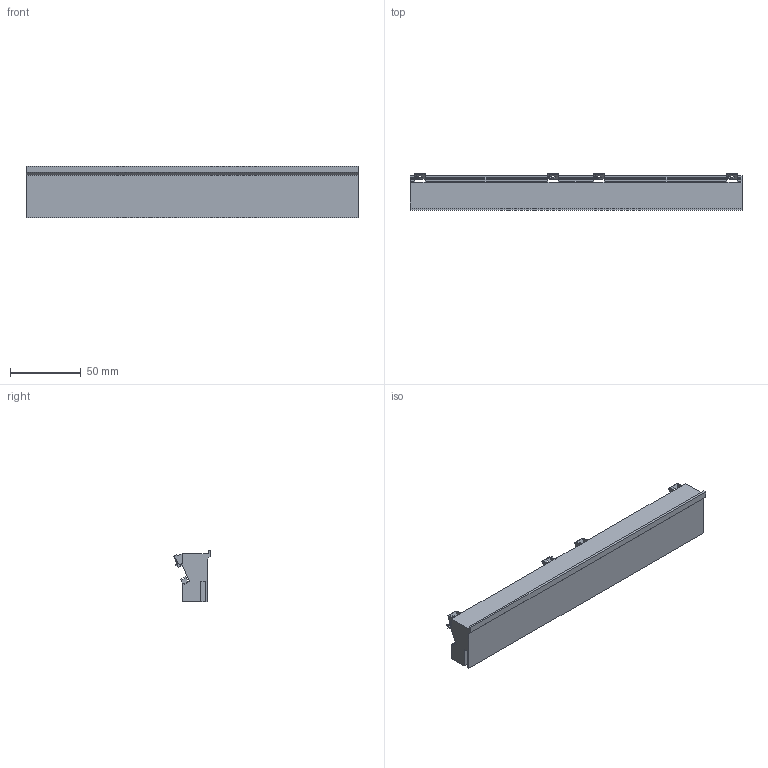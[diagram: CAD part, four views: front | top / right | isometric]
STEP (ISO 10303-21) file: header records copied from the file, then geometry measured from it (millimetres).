
FILE_DESCRIPTION(('Open CASCADE Model'),'2;1');
FILE_NAME('SOLID','2026-10-21T18:57:08',('Author'),('Open CASCADE'), 'Open CASCADE STEP processor 8.0','build123d','Unknown');
FILE_SCHEMA(('AUTOMOTIVE_DESIGN { 1 0 10303 214 1 1 1 1 }'));
Products named in the file (1): SOLID
Bounding box: 234 x 25.92 x 36.5 mm (x, y, z)
Volume: 134030.7 mm3; surface area: 32426.9 mm2
Topology: 1 solids, 1 shells, 608 faces, 1724 edges, 1106 vertices
Faces by surface type: plane 331, cylinder 276, bspline 1
Entity records: 46693 total; most frequent: CARTESIAN_POINT 13882, DIRECTION 5849, ORIENTED_EDGE 3448, PCURVE 3448, DEFINITIONAL_REPRESENTATION 3448, LINE 2624, VECTOR 2624, EDGE_CURVE 1724
